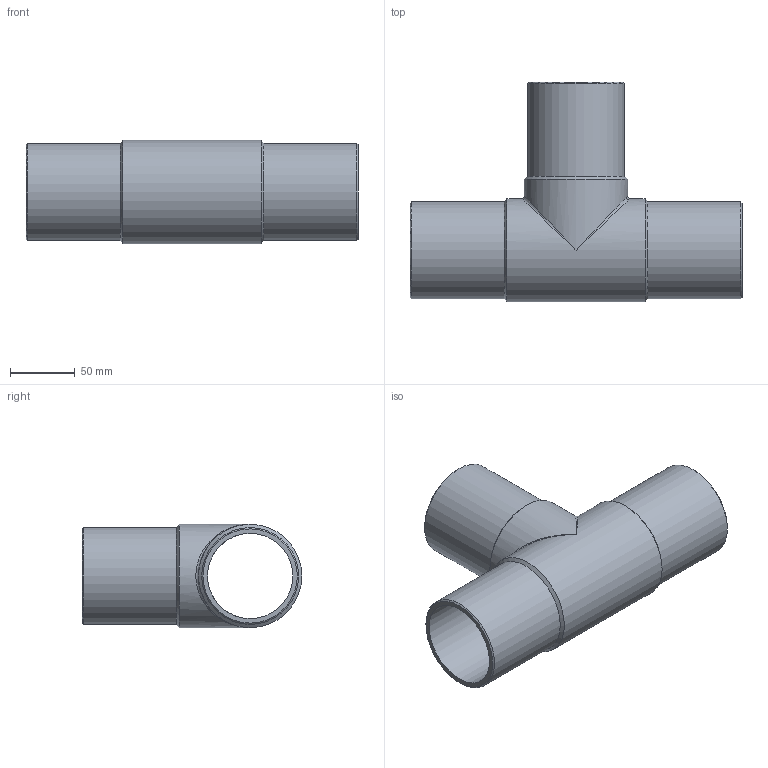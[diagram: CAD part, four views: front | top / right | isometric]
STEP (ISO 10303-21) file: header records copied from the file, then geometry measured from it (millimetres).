
FILE_DESCRIPTION(/* description */ ('Unknown'),/* implementation_level */ '2;1');
FILE_NAME(/* name */ 'TP075B',/* time_stamp */ '2021-08-13T12:45:39+02:00',/* author */ ('Unknown'),/* organization */ ('Unknown'),/* preprocessor_version */ 'ST-DEVELOPER v16.7',/* originating_system */ 'Solid Edge',/* authorisation */ 'Unknown');
FILE_SCHEMA (('AUTOMOTIVE_DESIGN {1 0 10303 214 3 1 1}'));
Length unit declared in the file: millimetre
Products named in the file (1): TP075B
Bounding box: 257 x 170 x 80 mm (x, y, z)
Volume: 411028.9 mm3; surface area: 155872.9 mm2
Topology: 1 solids, 1 shells, 18 faces, 44 edges, 23 vertices
Faces by surface type: cylinder 7, cone 6, plane 3, bspline 2
Full cylindrical faces by diameter (mm): 66 x2, 75 x3, 80 x2
Entity records: 504 total; most frequent: CARTESIAN_POINT 147, DIRECTION 76, ORIENTED_EDGE 42, AXIS2_PLACEMENT_3D 38, EDGE_LOOP 36, FACE_BOUND 36, EDGE_CURVE 21, VERTEX_POINT 19
